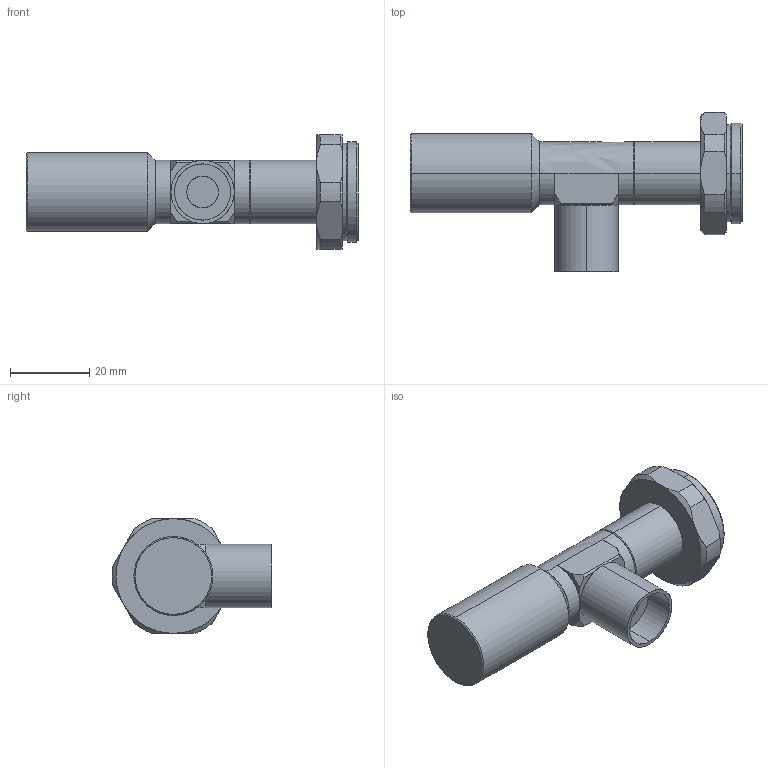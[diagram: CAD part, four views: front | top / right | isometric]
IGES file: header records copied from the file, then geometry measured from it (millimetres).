
Start section: SolidWorks IGES file using analytic representation for surfaces
Global section: file name: C:\IGES\TS-APT08X65D_Drawing_M0250E-A00100.IGS; native system: SolidWorks 2021; preprocessor: SolidWorks 2021; author: Chishima_vst; date: 230419.114318; units: millimetre
Bounding box: 83.97 x 40.38 x 29 mm (x, y, z)
Surface area: 8466.3 mm2 (no closed solid volume)
Topology: 0 solids, 0 shells, 78 faces, 826 edges, 826 vertices
Faces by surface type: revolution 51, bspline 27
